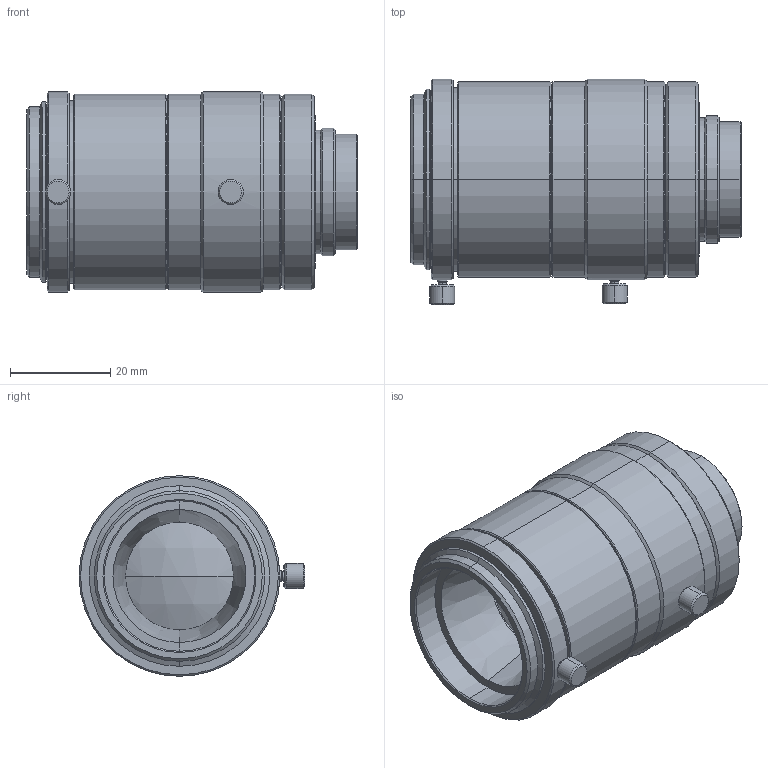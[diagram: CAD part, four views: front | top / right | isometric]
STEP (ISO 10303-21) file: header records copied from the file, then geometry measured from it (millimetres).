
FILE_DESCRIPTION (( 'STEP AP203' ), '1' );
FILE_NAME ('VS-HVA5024.STEP', '2022-03-22T06:59:11', ( '' ), ( '' ), 'SwSTEP 2.0', 'SolidWorks 2021', '' );
FILE_SCHEMA (( 'CONFIG_CONTROL_DESIGN' ));
Length unit declared in the file: millimetre
Products named in the file (1): VS-HVA5024
Bounding box: 65.77 x 45 x 40 mm (x, y, z)
Volume: 62686.9 mm3; surface area: 12770.3 mm2
Topology: 1 solids, 1 shells, 128 faces, 260 edges, 150 vertices
Faces by surface type: cone 60, cylinder 46, plane 18, bspline 2, sphere 2
Entity records: 3517 total; most frequent: CARTESIAN_POINT 677, DIRECTION 652, ORIENTED_EDGE 516, AXIS2_PLACEMENT_3D 273, EDGE_CURVE 258, VERTEX_POINT 150, EDGE_LOOP 146, CIRCLE 146
